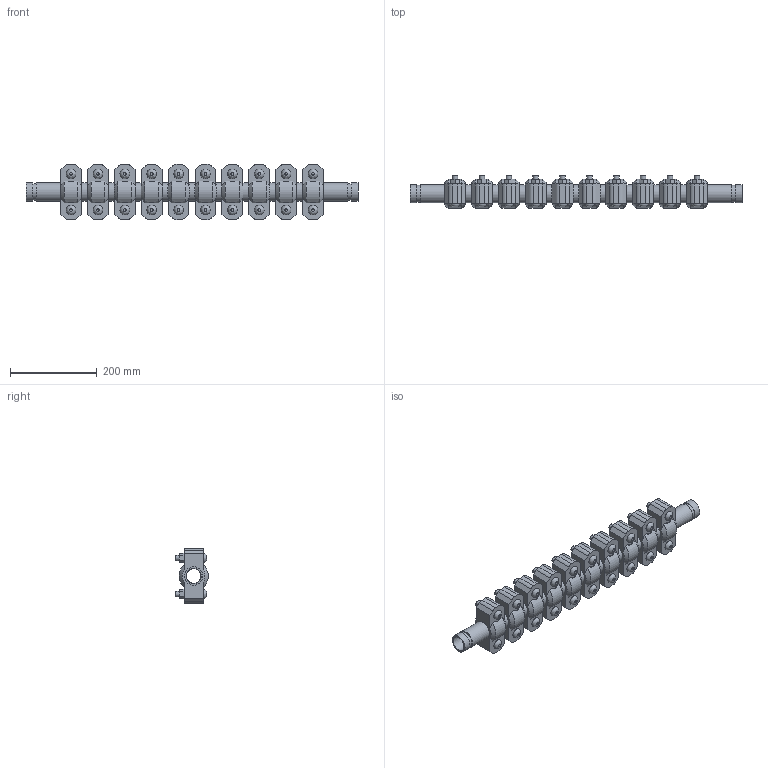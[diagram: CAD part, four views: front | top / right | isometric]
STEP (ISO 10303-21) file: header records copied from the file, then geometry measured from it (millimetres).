
FILE_DESCRIPTION(/* description */ ('VIC EXPANSION JOINT 10 COUPLINGS EXPANDED STYLE 155 (OGS)','CAx-IF Rec.Pracs.---Representation and Presentation of Product Manufacturing Information (PMI)---4.0---2014-10-13'),/* implementation_level */ '2;1');
FILE_NAME(/* name */ 'C:\Users\kkamble\AppData\Roaming\Autodesk\ApplicationPlugins\Victaulic.Temp\A992\Victaulic_IPS_Expansion Joint_Expanded_10 Couplings_Style 155 (OGS)_1.25 (32).stp',/* time_stamp */ '2021-06-26T23:49:17+02:00',/* author */ ('kkamble'),/* organization */ ('Victaulic'),/* preprocessor_version */ 'ST-DEVELOPER v17.2',/* originating_system */ 'Autodesk Inventor 2019',/* authorisation */ '');
FILE_SCHEMA (('AP242_MANAGED_MODEL_BASED_3D_ENGINEERING_MIM_LF { 1 0 10303 442 1 1 4 }'));
Length unit declared in the file: inch
Products named in the file (4): 155-01.25; Nipple-01.25; Nipple-01.25_1; 077-01.25
Assembly tree (21 placements, depth 2):
  155-01.25
    Nipple-01.25  x2
    Nipple-01.25_1  x9
    077-01.25  x10
Bounding box: 765.3 x 74.93 x 127 mm (x, y, z)
Volume: 2598960.5 mm3; surface area: 618503.4 mm2
Topology: 21 solids, 41 shells, 742 faces, 1780 edges, 1244 vertices
Faces by surface type: plane 426, cylinder 256, cone 40, bspline 20
Full cylindrical faces by diameter (mm): 12.7 x40, 14.605 x20, 33.274 x10, 35.052 x11, 38.989 x22, 42.164 x53
Entity records: 3049 total; most frequent: CARTESIAN_POINT 565, DIRECTION 505, ORIENTED_EDGE 410, EDGE_CURVE 205, AXIS2_PLACEMENT_3D 204, VERTEX_POINT 146, EDGE_LOOP 111, LINE 97
